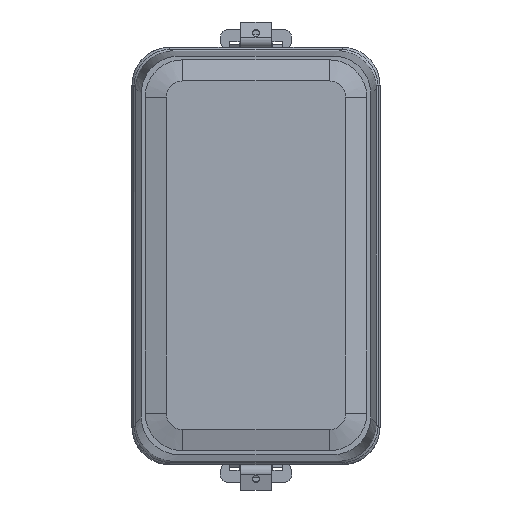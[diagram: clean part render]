
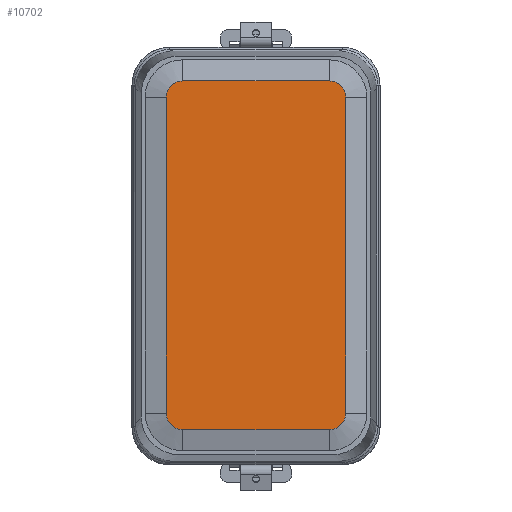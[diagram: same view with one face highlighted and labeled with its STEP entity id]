
A CAD part, top view. The second image highlights one B-rep face of the part: STEP entity #10702.
In plain terms, the highlighted planar face has unit normal (0, 0, 1).
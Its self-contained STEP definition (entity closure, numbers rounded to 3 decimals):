
#10702=ADVANCED_FACE('',(#25728),#25730,.F.);
#25728=FACE_BOUND('',#25729,.T.);
#25729=EDGE_LOOP('',(#35884,#35885,#35886,#35887,#35888,#35889,#35890,#35891));
#25730=PLANE('',#25731);
#25731=AXIS2_PLACEMENT_3D('',#25732,#25733,#25734);
#25732=CARTESIAN_POINT('',(0.,0.,149.5));
#25733=DIRECTION('',(-0.,0.,-1.));
#25734=DIRECTION('',(-1.,0.,0.));
#35884=ORIENTED_EDGE('',*,*,#49088,.T.);
#35885=ORIENTED_EDGE('',*,*,#49103,.T.);
#35886=ORIENTED_EDGE('',*,*,#49101,.T.);
#35887=ORIENTED_EDGE('',*,*,#49099,.T.);
#35888=ORIENTED_EDGE('',*,*,#49097,.T.);
#35889=ORIENTED_EDGE('',*,*,#49095,.T.);
#35890=ORIENTED_EDGE('',*,*,#49093,.T.);
#35891=ORIENTED_EDGE('',*,*,#49091,.T.);
#49088=EDGE_CURVE('',#55596,#55597,#55598,.F.);
#49091=EDGE_CURVE('',#55601,#55596,#55602,.T.);
#49093=EDGE_CURVE('',#55604,#55601,#55605,.F.);
#49095=EDGE_CURVE('',#55607,#55604,#55608,.T.);
#49097=EDGE_CURVE('',#55610,#55607,#55611,.F.);
#49099=EDGE_CURVE('',#55613,#55610,#55614,.T.);
#49101=EDGE_CURVE('',#55616,#55613,#55617,.F.);
#49103=EDGE_CURVE('',#55597,#55616,#55619,.T.);
#55596=VERTEX_POINT('',#74222);
#55597=VERTEX_POINT('',#74223);
#55598=LINE('',#74224,#74225);
#55601=VERTEX_POINT('',#74233);
#55602=CIRCLE('',#74234,4.4);
#55604=VERTEX_POINT('',#74241);
#55605=LINE('',#74242,#74243);
#55607=VERTEX_POINT('',#74248);
#55608=CIRCLE('',#74249,4.4);
#55610=VERTEX_POINT('',#74256);
#55611=LINE('',#74257,#74258);
#55613=VERTEX_POINT('',#74263);
#55614=CIRCLE('',#74264,4.4);
#55616=VERTEX_POINT('',#74271);
#55617=LINE('',#74272,#74273);
#55619=CIRCLE('',#74278,4.4);
#74222=CARTESIAN_POINT('',(-19.5,-46.4,149.5));
#74223=CARTESIAN_POINT('',(19.5,-46.4,149.5));
#74224=CARTESIAN_POINT('',(19.5,-46.4,149.5));
#74225=VECTOR('',#74226,1.);
#74226=DIRECTION('',(-1.,0.,0.));
#74233=CARTESIAN_POINT('',(-23.9,-42.,149.5));
#74234=AXIS2_PLACEMENT_3D('',#74235,#74236,#74237);
#74235=CARTESIAN_POINT('',(-19.5,-42.,149.5));
#74236=DIRECTION('',(0.,0.,1.));
#74237=DIRECTION('',(-1.,0.,0.));
#74241=CARTESIAN_POINT('',(-23.9,42.,149.5));
#74242=CARTESIAN_POINT('',(-23.9,-42.,149.5));
#74243=VECTOR('',#74244,1.);
#74244=DIRECTION('',(0.,1.,0.));
#74248=CARTESIAN_POINT('',(-19.5,46.4,149.5));
#74249=AXIS2_PLACEMENT_3D('',#74250,#74251,#74252);
#74250=CARTESIAN_POINT('',(-19.5,42.,149.5));
#74251=DIRECTION('',(0.,-0.,1.));
#74252=DIRECTION('',(0.,1.,0.));
#74256=CARTESIAN_POINT('',(19.5,46.4,149.5));
#74257=CARTESIAN_POINT('',(-19.5,46.4,149.5));
#74258=VECTOR('',#74259,1.);
#74259=DIRECTION('',(1.,0.,0.));
#74263=CARTESIAN_POINT('',(23.9,42.,149.5));
#74264=AXIS2_PLACEMENT_3D('',#74265,#74266,#74267);
#74265=CARTESIAN_POINT('',(19.5,42.,149.5));
#74266=DIRECTION('',(0.,0.,1.));
#74267=DIRECTION('',(1.,0.,0.));
#74271=CARTESIAN_POINT('',(23.9,-42.,149.5));
#74272=CARTESIAN_POINT('',(23.9,42.,149.5));
#74273=VECTOR('',#74274,1.);
#74274=DIRECTION('',(0.,-1.,0.));
#74278=AXIS2_PLACEMENT_3D('',#74279,#74280,#74281);
#74279=CARTESIAN_POINT('',(19.5,-42.,149.5));
#74280=DIRECTION('',(0.,0.,1.));
#74281=DIRECTION('',(0.,-1.,0.));
